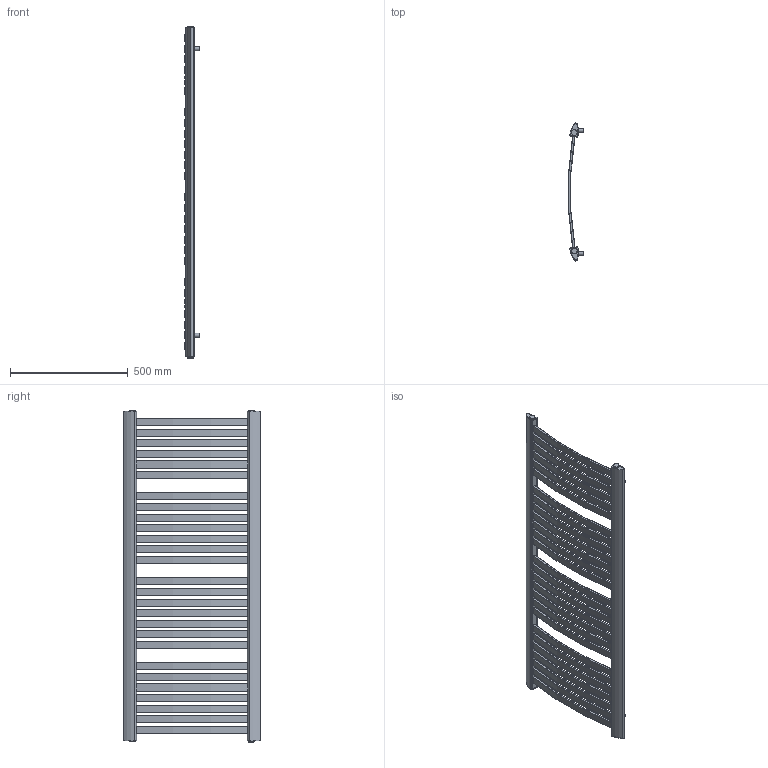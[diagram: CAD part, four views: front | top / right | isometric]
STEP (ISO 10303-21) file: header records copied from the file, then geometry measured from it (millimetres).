
FILE_DESCRIPTION(/* description */ (''),/* implementation_level */ '2;1');
FILE_NAME(/* name */ 'C:\Grzejniki\13DLUXRAD\łazienkowe\KASTOR\KASTOR 1395x580.iam.stp',/* time_stamp */ '2016-06-28T17:35:02+02:00',/* author */ ('m.szydziak'),/* organization */ (''),/* preprocessor_version */ 'ST-DEVELOPER v16.5',/* originating_system */ 'Autodesk Inventor 2017',/* authorisation */ '');
FILE_SCHEMA (('AUTOMOTIVE_DESIGN { 1 0 10303 214 3 1 1 }'));
Length unit declared in the file: millimetre
Products named in the file (6): KASTOR 1395x580; 30x10x1x484; 56x34x1,2x1395 30x10; zaślepka 56x34 G0,5inch; uchwyt stały; korek
Assembly tree (41 placements, depth 2):
  KASTOR 1395x580
    30x10x1x484  x27
    56x34x1,2x1395 30x10  x2
    zaślepka 56x34 G0,5inch  x4
    uchwyt stały  x4
    korek  x4
Bounding box: 63.33 x 582.61 x 1407 mm (x, y, z)
Volume: 1491808.7 mm3; surface area: 2813124.4 mm2
Topology: 41 solids, 41 shells, 1274 faces, 3364 edges, 2172 vertices
Faces by surface type: plane 894, cylinder 380
Full cylindrical faces by diameter (mm): 15 x4, 18 x4, 18.631 x4, 24 x4
Entity records: 9898 total; most frequent: DIRECTION 1748, CARTESIAN_POINT 1679, ORIENTED_EDGE 1618, EDGE_CURVE 809, AXIS2_PLACEMENT_3D 608, VERTEX_POINT 539, LINE 532, VECTOR 532
